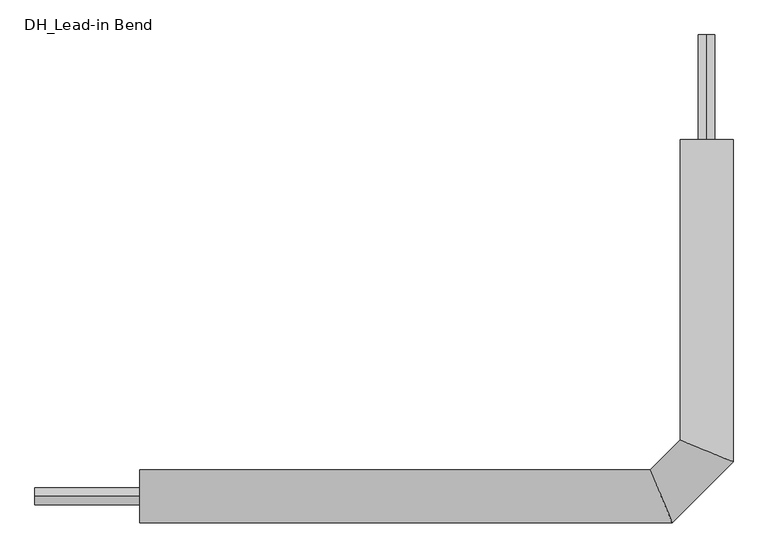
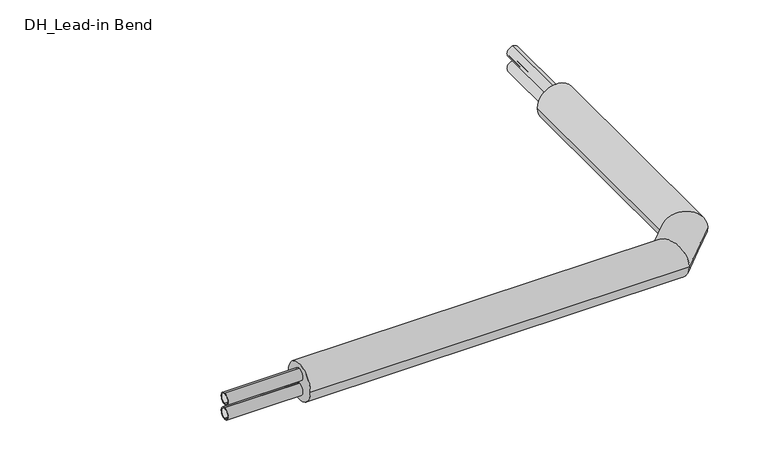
"""IFC4 building model written with IfcOpenShell, lengths in millimetres: pipe fitting geometry, DH_Lead-in Bend : RVT/RVX/RTX DUO 11 Heating Horizontal."""

from ifc_helpers import new_model, si_unit, point, frame, frame_2d, origin, place, context, project, spatial, circle_curve, ellipse_curve, trimmed, segment, composite_curve, outline, extrude, source, transform, mapped, element, save
from ifc_brep_helpers import plane_surface, cylinder_surface, advanced_brep


def dh_lead_in_bend_0df09993(model_context):
    return source(origin(), model_context, "Body", "SolidModel", [
        extrude(outline(composite_curve([segment(trimmed(circle_curve(frame_2d((0.0, -26.0)), 20.0), [point((0.0, -6.0))], [point((0.0, -46.0))], False, "CARTESIAN"), True, "CONTINUOUS"), segment(trimmed(circle_curve(frame_2d((0.0, -26.0)), 20.0), [point((0.0, -46.0))], [point((0.0, -6.0))], False, "CARTESIAN"), True, "CONTINUOUS")], self_intersect=False), holes=[composite_curve([segment(trimmed(circle_curve(frame_2d((0.0, -26.0)), 16.3), [point((0.0, -9.7))], [point((0.0, -42.3))], True, "CARTESIAN"), True, "CONTINUOUS"), segment(trimmed(circle_curve(frame_2d((0.0, -26.0)), 16.3), [point((0.0, -42.3))], [point((0.0, -9.7))], True, "CARTESIAN"), True, "CONTINUOUS")], self_intersect=False)]), frame((-1600.0, 0.0, 0.0), z_axis=(1.0, 0.0, 0.0), x_axis=(0.0, 1.0, 0.0)), (0.0, 0.0, 1.0), 250.0),
        advanced_brep(
        [(-1350.0, -63.0, 0.0), (-1350.0, 63.0, 0.0), (-82.2045456, -63.0, 0.0), (-134.3954544, 63.0, 0.0), (63.0, 850.0, 0.0), (-63.0, 850.0, 0.0), (-63.0, 134.3954544, 0.0), (63.0, 82.2045456, 0.0)],
        [
            (0, 1, circle_curve(frame((-1350.0, 0.0, 0.0), z_axis=(-1.0, 0.0, 0.0), x_axis=(0.0, 1.0, 0.0)), 63.0)),
            (1, 0, circle_curve(frame((-1350.0, 0.0, 0.0), z_axis=(-1.0, 0.0, 0.0), x_axis=(0.0, 1.0, 0.0)), 63.0)),
            (0, 2),
            (2, 3, ellipse_curve(frame((-108.3, 0.0, 0.0), z_axis=(-0.9238795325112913, -0.3826834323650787, 0.0), x_axis=(-0.3826834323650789, 0.9238795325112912, 0.0)), 68.1907086, 63.0)),
            (3, 1),
            (3, 2, ellipse_curve(frame((-108.3, 0.0, 0.0), z_axis=(-0.9238795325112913, -0.3826834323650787, 0.0), x_axis=(-0.3826834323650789, 0.9238795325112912, 0.0)), 68.1907086, 63.0)),
            (4, 5, circle_curve(frame((0.0, 850.0, 0.0), z_axis=(0.0, 1.0, 0.0), x_axis=(-1.0, 0.0, 0.0)), 63.0)),
            (5, 4, circle_curve(frame((0.0, 850.0, 0.0), z_axis=(0.0, 1.0, 0.0), x_axis=(-1.0, 0.0, 0.0)), 63.0)),
            (6, 7, ellipse_curve(frame((0.0, 108.3, 0.0), z_axis=(0.3826834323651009, 0.9238795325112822, 0.0), x_axis=(0.9238795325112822, -0.3826834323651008, 0.0)), 68.1907086, 63.0)),
            (7, 4),
            (5, 6),
            (7, 6, ellipse_curve(frame((0.0, 108.3, 0.0), z_axis=(0.3826834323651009, 0.9238795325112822, 0.0), x_axis=(0.9238795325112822, -0.3826834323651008, 0.0)), 68.1907086, 63.0)),
            (2, 7),
            (6, 3),
        ],
        [
            plane_surface(frame((-1350.0, 0.0, 0.0), z_axis=(-1.0, 0.0, 0.0), x_axis=(0.0, 0.0, 1.0))),
            cylinder_surface(frame((-1350.0, 0.0, 0.0), z_axis=(-1.0, 0.0, 0.0), x_axis=(0.0, 1.0, 0.0)), 63.0),
            plane_surface(frame((0.0, 850.0, 0.0), z_axis=(0.0, 1.0, 0.0), x_axis=(0.0, 0.0, 1.0))),
            cylinder_surface(frame((0.0, 108.3, 0.0), z_axis=(0.0, -1.0, 0.0), x_axis=(-1.0, 0.0, 0.0)), 63.0),
            cylinder_surface(frame((-108.3, 0.0, 0.0), z_axis=(-0.7071067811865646, -0.7071067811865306, 0.0), x_axis=(-0.7071067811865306, 0.7071067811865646, 0.0)), 63.0),
        ],
        [
            (0, [[1, 2]]),
            (1, [[-1, 3, 4, 5]]),
            (1, [[-2, -5, 6, -3]]),
            (2, [[7, 8]]),
            (3, [[9, 10, -8, 11]]),
            (3, [[12, -11, -7, -10]]),
            (4, [[-4, 13, -9, 14]]),
            (4, [[-6, -14, -12, -13]]),
        ],
    ),
        extrude(outline(composite_curve([segment(trimmed(circle_curve(frame_2d((26.0, 0.0)), 20.0), [point((6.0, 0.0))], [point((46.0, 0.0))], False, "CARTESIAN"), True, "CONTINUOUS"), segment(trimmed(circle_curve(frame_2d((26.0, 0.0)), 20.0), [point((46.0, 0.0))], [point((6.0, 0.0))], False, "CARTESIAN"), True, "CONTINUOUS")], self_intersect=False), holes=[composite_curve([segment(trimmed(circle_curve(frame_2d((26.0, 0.0)), 16.3), [point((9.7, 0.0))], [point((42.3, 0.0))], True, "CARTESIAN"), True, "CONTINUOUS"), segment(trimmed(circle_curve(frame_2d((26.0, 0.0)), 16.3), [point((42.3, 0.0))], [point((9.7, 0.0))], True, "CARTESIAN"), True, "CONTINUOUS")], self_intersect=False)]), frame((0.0, 850.0, 0.0), z_axis=(0.0, 1.0, 0.0), x_axis=(0.0, 0.0, 1.0)), (0.0, 0.0, 1.0), 250.0),
        extrude(outline(composite_curve([segment(trimmed(circle_curve(frame_2d((0.0, 26.0)), 20.0), [point((0.0, 6.0))], [point((0.0, 46.0))], False, "CARTESIAN"), True, "CONTINUOUS"), segment(trimmed(circle_curve(frame_2d((0.0, 26.0)), 20.0), [point((0.0, 46.0))], [point((0.0, 6.0))], False, "CARTESIAN"), True, "CONTINUOUS")], self_intersect=False), holes=[composite_curve([segment(trimmed(circle_curve(frame_2d((0.0, 26.0)), 16.3), [point((0.0, 9.7))], [point((0.0, 42.3))], True, "CARTESIAN"), True, "CONTINUOUS"), segment(trimmed(circle_curve(frame_2d((0.0, 26.0)), 16.3), [point((0.0, 42.3))], [point((0.0, 9.7))], True, "CARTESIAN"), True, "CONTINUOUS")], self_intersect=False)]), frame((-1600.0, 0.0, 0.0), z_axis=(1.0, 0.0, 0.0), x_axis=(0.0, 1.0, 0.0)), (0.0, 0.0, 1.0), 250.0),
        extrude(outline(composite_curve([segment(trimmed(circle_curve(frame_2d((-26.0, 0.0)), 20.0), [point((-6.0, 0.0))], [point((-46.0, 0.0))], False, "CARTESIAN"), True, "CONTINUOUS"), segment(trimmed(circle_curve(frame_2d((-26.0, 0.0)), 20.0), [point((-46.0, 0.0))], [point((-6.0, 0.0))], False, "CARTESIAN"), True, "CONTINUOUS")], self_intersect=False), holes=[composite_curve([segment(trimmed(circle_curve(frame_2d((-26.0, 0.0)), 16.3), [point((-9.7, 0.0))], [point((-42.3, 0.0))], True, "CARTESIAN"), True, "CONTINUOUS"), segment(trimmed(circle_curve(frame_2d((-26.0, 0.0)), 16.3), [point((-42.3, 0.0))], [point((-9.7, 0.0))], True, "CARTESIAN"), True, "CONTINUOUS")], self_intersect=False)]), frame((0.0, 850.0, 0.0), z_axis=(0.0, 1.0, 0.0), x_axis=(0.0, 0.0, 1.0)), (0.0, 0.0, 1.0), 250.0),
    ])


if __name__ == "__main__":
    model = new_model("IFC4")
    model_context = context("Model", 3, world=origin())
    ifc_project = project(units=[si_unit("LENGTHUNIT", "METRE", prefix="MILLI")], contexts=[model_context])
    site = spatial("IfcSite", under=ifc_project)
    building = spatial("IfcBuilding", under=site)
    placement = place(None, origin())
    dh_lead_in_bend_shape = dh_lead_in_bend_0df09993(model_context)
    element("IfcPipeFitting", 1, ObjectType="DH_Lead-in Bend : RVT/RVX/RTX DUO 11 Heating Horizontal", at=placement, inside=building, context=model_context, shape_type="MappedRepresentation", body=[
        mapped(dh_lead_in_bend_shape, transform((0.0, 0.0, 0.0), x_axis=(1.0, 0.0, 0.0), y_axis=(0.0, 1.0, 0.0), z_axis=(0.0, 0.0, 1.0))),
    ])
    save(model, "model.ifc")
